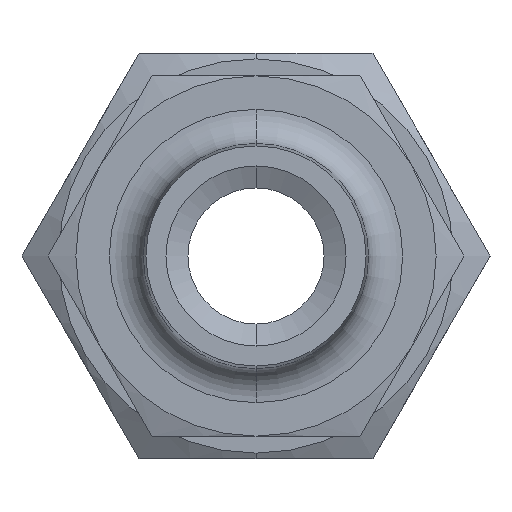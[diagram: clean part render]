
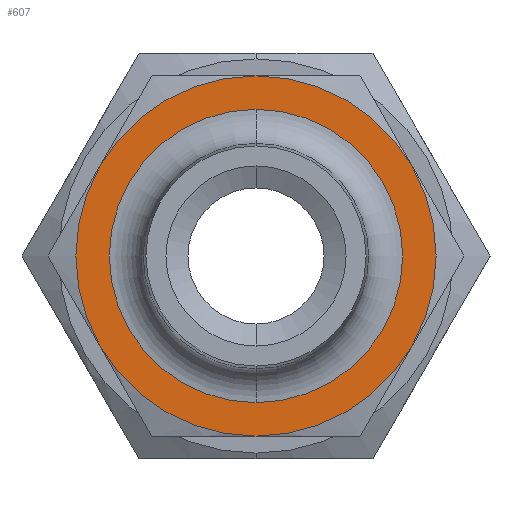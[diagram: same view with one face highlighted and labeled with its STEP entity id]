
A CAD part, left-side view. The second image highlights one B-rep face of the part: STEP entity #607.
In plain terms, the highlighted planar face has unit normal (-1, 0, 0).
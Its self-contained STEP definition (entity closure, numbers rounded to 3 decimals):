
#1 = ORIENTED_EDGE ( 'NONE', *, *, #2, .F. ) ;
#2 = EDGE_CURVE ( 'NONE', #301, #320, #773, .T. ) ;
#3 = ORIENTED_EDGE ( 'NONE', *, *, #4, .F. ) ;
#4 = EDGE_CURVE ( 'NONE', #13, #301, #768, .T. ) ;
#5 = ORIENTED_EDGE ( 'NONE', *, *, #6, .F. ) ;
#6 = EDGE_CURVE ( 'NONE', #278, #13, #763, .T. ) ;
#7 = ORIENTED_EDGE ( 'NONE', *, *, #8, .T. ) ;
#8 = EDGE_CURVE ( 'NONE', #278, #37, #758, .T. ) ;
#9 = ORIENTED_EDGE ( 'NONE', *, *, #517, .F. ) ;
#13 = VERTEX_POINT ( 'NONE', #753 ) ;
#37 = VERTEX_POINT ( 'NONE', #652 ) ;
#114 = VERTEX_POINT ( 'NONE', #1047 ) ;
#195 = EDGE_CURVE ( 'NONE', #196, #197, #847, .T. ) ;
#196 = VERTEX_POINT ( 'NONE', #837 ) ;
#197 = VERTEX_POINT ( 'NONE', #836 ) ;
#278 = VERTEX_POINT ( 'NONE', #1124 ) ;
#301 = VERTEX_POINT ( 'NONE', #1235 ) ;
#320 = VERTEX_POINT ( 'NONE', #1465 ) ;
#322 = EDGE_LOOP ( 'NONE', ( #323, #1, #3, #5, #7, #9 ) ) ;
#323 = ORIENTED_EDGE ( 'NONE', *, *, #1921, .F. ) ;
#517 = EDGE_CURVE ( 'NONE', #114, #37, #1549, .T. ) ;
#607 = ADVANCED_FACE ( 'NONE', ( #1916, #1914 ), #1913, .F. ) ;
#608 = EDGE_LOOP ( 'NONE', ( #609, #611 ) ) ;
#609 = ORIENTED_EDGE ( 'NONE', *, *, #610, .T. ) ;
#610 = EDGE_CURVE ( 'NONE', #197, #196, #1902, .T. ) ;
#611 = ORIENTED_EDGE ( 'NONE', *, *, #195, .T. ) ;
#652 = CARTESIAN_POINT ( 'NONE',  ( 0., 5.499, 3.175 ) ) ;
#753 = CARTESIAN_POINT ( 'NONE',  ( 0., -5.499, 3.175 ) ) ;
#754 = DIRECTION ( 'NONE',  ( 0., 0., 1. ) ) ;
#755 = DIRECTION ( 'NONE',  ( -1., 0., 0. ) ) ;
#756 = CARTESIAN_POINT ( 'NONE',  ( 0., 0., 0. ) ) ;
#757 = AXIS2_PLACEMENT_3D ( 'NONE', #756, #755, #754 ) ;
#758 = CIRCLE ( 'NONE', #757, 6.35 ) ;
#759 = DIRECTION ( 'NONE',  ( 0., 0., -1. ) ) ;
#760 = DIRECTION ( 'NONE',  ( 1., 0., 0. ) ) ;
#761 = CARTESIAN_POINT ( 'NONE',  ( 0., 0., 0. ) ) ;
#762 = AXIS2_PLACEMENT_3D ( 'NONE', #761, #760, #759 ) ;
#763 = CIRCLE ( 'NONE', #762, 6.35 ) ;
#764 = DIRECTION ( 'NONE',  ( 0., 0., -1. ) ) ;
#765 = DIRECTION ( 'NONE',  ( 1., 0., 0. ) ) ;
#766 = CARTESIAN_POINT ( 'NONE',  ( 0., 0., 0. ) ) ;
#767 = AXIS2_PLACEMENT_3D ( 'NONE', #766, #765, #764 ) ;
#768 = CIRCLE ( 'NONE', #767, 6.35 ) ;
#769 = DIRECTION ( 'NONE',  ( 0., 0., -1. ) ) ;
#770 = DIRECTION ( 'NONE',  ( 1., 0., 0. ) ) ;
#771 = CARTESIAN_POINT ( 'NONE',  ( 0., 0., 0. ) ) ;
#772 = AXIS2_PLACEMENT_3D ( 'NONE', #771, #770, #769 ) ;
#773 = CIRCLE ( 'NONE', #772, 6.35 ) ;
#836 = CARTESIAN_POINT ( 'NONE',  ( 0., 0., -5.17 ) ) ;
#837 = CARTESIAN_POINT ( 'NONE',  ( 0., 0., 5.17 ) ) ;
#838 = DIRECTION ( 'NONE',  ( 0., 0., -1. ) ) ;
#839 = DIRECTION ( 'NONE',  ( 1., 0., 0. ) ) ;
#840 = CARTESIAN_POINT ( 'NONE',  ( 0., 0., 0. ) ) ;
#841 = AXIS2_PLACEMENT_3D ( 'NONE', #840, #839, #838 ) ;
#847 = CIRCLE ( 'NONE', #841, 5.17 ) ;
#1047 = CARTESIAN_POINT ( 'NONE',  ( 0., 5.499, -3.175 ) ) ;
#1124 = CARTESIAN_POINT ( 'NONE',  ( 0., 0., 6.35 ) ) ;
#1235 = CARTESIAN_POINT ( 'NONE',  ( 0., -5.499, -3.175 ) ) ;
#1465 = CARTESIAN_POINT ( 'NONE',  ( 0., 0., -6.35 ) ) ;
#1545 = DIRECTION ( 'NONE',  ( 0., 0., -1. ) ) ;
#1546 = DIRECTION ( 'NONE',  ( 1., 0., 0. ) ) ;
#1547 = CARTESIAN_POINT ( 'NONE',  ( 0., 0., 0. ) ) ;
#1548 = AXIS2_PLACEMENT_3D ( 'NONE', #1547, #1546, #1545 ) ;
#1549 = CIRCLE ( 'NONE', #1548, 6.35 ) ;
#1782 = DIRECTION ( 'NONE',  ( 0., 0., -1. ) ) ;
#1783 = DIRECTION ( 'NONE',  ( 1., 0., 0. ) ) ;
#1784 = CARTESIAN_POINT ( 'NONE',  ( 0., 0., 0. ) ) ;
#1785 = AXIS2_PLACEMENT_3D ( 'NONE', #1784, #1783, #1782 ) ;
#1790 = CIRCLE ( 'NONE', #1785, 6.35 ) ;
#1898 = DIRECTION ( 'NONE',  ( 0., 0., -1. ) ) ;
#1899 = DIRECTION ( 'NONE',  ( 1., 0., 0. ) ) ;
#1900 = CARTESIAN_POINT ( 'NONE',  ( 0., 0., 0. ) ) ;
#1901 = AXIS2_PLACEMENT_3D ( 'NONE', #1900, #1899, #1898 ) ;
#1902 = CIRCLE ( 'NONE', #1901, 5.17 ) ;
#1903 = DIRECTION ( 'NONE',  ( 0., 0., -1. ) ) ;
#1904 = DIRECTION ( 'NONE',  ( 1., 0., 0. ) ) ;
#1905 = AXIS2_PLACEMENT_3D ( 'NONE', #1912, #1904, #1903 ) ;
#1912 = CARTESIAN_POINT ( 'NONE',  ( 0., 7.332, 0. ) ) ;
#1913 = PLANE ( 'NONE',  #1905 ) ;
#1914 = FACE_OUTER_BOUND ( 'NONE', #322, .T. ) ;
#1916 = FACE_BOUND ( 'NONE', #608, .T. ) ;
#1921 = EDGE_CURVE ( 'NONE', #320, #114, #1790, .T. ) ;
